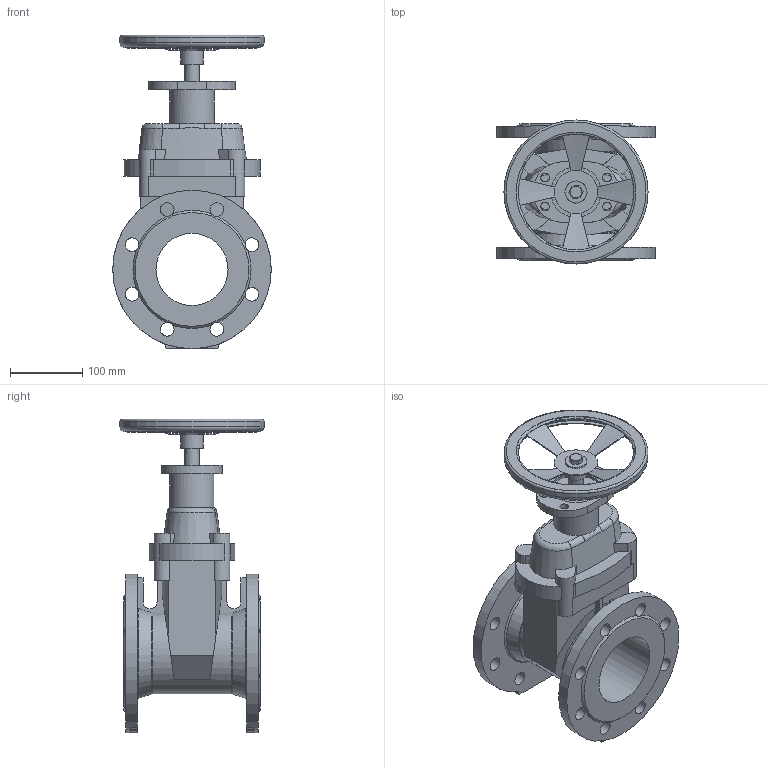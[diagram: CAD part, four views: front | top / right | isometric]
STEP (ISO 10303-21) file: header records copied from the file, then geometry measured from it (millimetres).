
FILE_DESCRIPTION(('STEP AP203'), '1');
FILE_NAME('Çàäâèæêà 47GV.M DN100 ñ ìàõîâèêîì', '', ('UNSPECIFIED'), ('UNSPECIFIED'), 'ASCON STEP Converter 1.6', 'ASCON Math Kernel', '');
FILE_SCHEMA(('CONFIG_CONTROL_DESIGN'));
Length unit declared in the file: millimetre
Bounding box: 220 x 200 x 435 mm (x, y, z)
Volume: 3707020.8 mm3; surface area: 450506.6 mm2
Topology: 1 solids, 1 shells, 229 faces, 649 edges, 414 vertices
Faces by surface type: plane 114, cylinder 77, cone 20, torus 16, bspline 2
Full cylindrical faces by diameter (mm): 12 x4, 19 x16, 20 x1, 30 x1, 31 x1, 62 x1, 70 x1, 100 x1, 163 x1, 197 x1, 200 x1, 220 x2
Entity records: 11699 total; most frequent: CARTESIAN_POINT 3864, DIRECTION 1286, ORIENTED_EDGE 1212, EDGE_CURVE 606, AXIS2_PLACEMENT_3D 516, VERTEX_POINT 414, EDGE_LOOP 314, CIRCLE 288
